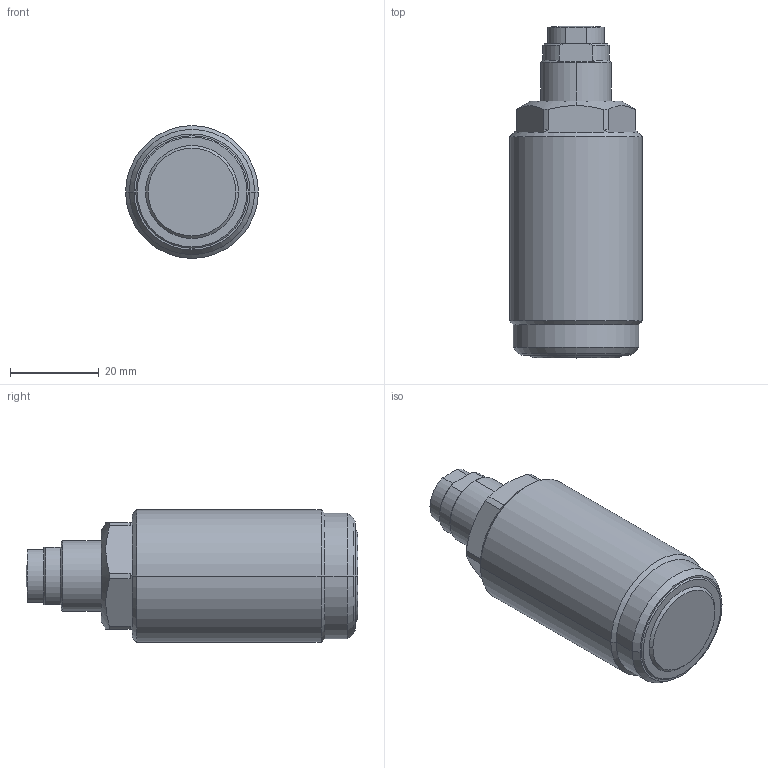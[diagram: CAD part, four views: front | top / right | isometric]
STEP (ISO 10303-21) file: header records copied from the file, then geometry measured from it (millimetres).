
FILE_DESCRIPTION(/* description */ (''),/* implementation_level */ '2;1');
FILE_NAME(/* name */ 'PGSS06-L.stp',/* time_stamp */ '2025-01-05T11:05:19+08:00',/* author */ (''),/* organization */ (''),/* preprocessor_version */ 'ST-DEVELOPER v16.7',/* originating_system */ 'SIEMENS PLM Software NX 12.0',/* authorisation */ '');
FILE_SCHEMA (('AUTOMOTIVE_DESIGN { 1 0 10303 214 3 1 1 1 }'));
Length unit declared in the file: millimetre
Products named in the file (4): PGSS06-L-03; PGSS06-L-02; PGSS06-L-01; CSV06M-L_step
Assembly tree (3 placements, depth 2):
  CSV06M-L_step
    PGSS06-L-01
    PGSS06-L-02
    PGSS06-L-03
Bounding box: 30 x 75 x 30 mm (x, y, z)
Volume: 39337.7 mm3; surface area: 8833.6 mm2
Topology: 3 solids, 3 shells, 88 faces, 202 edges, 127 vertices
Faces by surface type: cylinder 29, cone 29, plane 24, torus 4, sphere 2
Entity records: 2634 total; most frequent: CARTESIAN_POINT 513, DIRECTION 454, ORIENTED_EDGE 404, EDGE_CURVE 202, AXIS2_PLACEMENT_3D 188, VERTEX_POINT 127, EDGE_LOOP 97, CIRCLE 96
